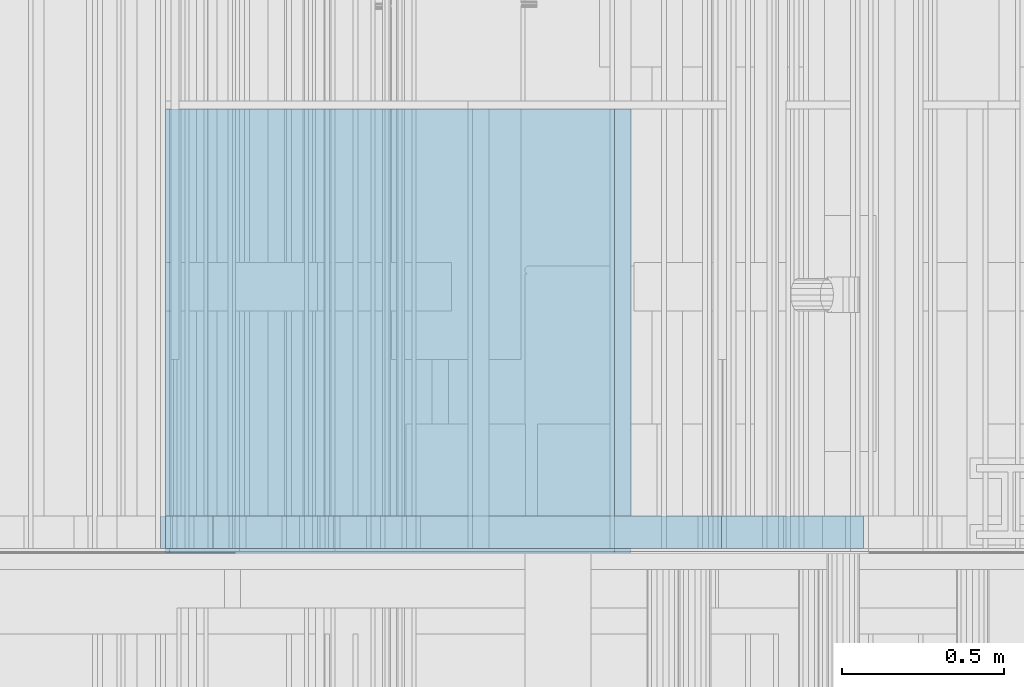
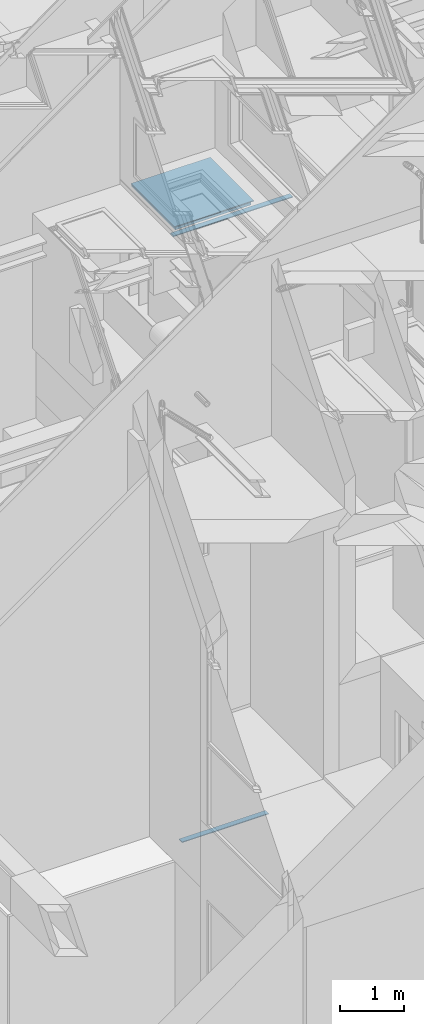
# One storey, part 74 of 583: 4 building element parts, 3 elements without a shape of their own.
"""IFC2X3 building model written with IfcOpenShell, lengths in metres."""

from ifc_helpers import new_model, entity, si_unit, converted_unit, derived_unit, money_unit, direction, frame, frame_2d, origin_with_axes, place, context, subcontext, project, spatial, polyline, rectangle, outline, extrude, material, type_object, element, aggregate, save


model = new_model("IFC2X3")

# Units and contexts
model_context = context("Model", 3, precision=1e-05, world=origin_with_axes(), true_north=direction((0.0, 1.0)))
body_context = subcontext(model_context, "Body", "Model", "MODEL_VIEW", scale=1.0)
ifc_project = project(units=[si_unit("LENGTHUNIT", "METRE"), si_unit("AREAUNIT", "SQUARE_METRE"), si_unit("VOLUMEUNIT", "CUBIC_METRE"), si_unit("ABSORBEDDOSEUNIT", "GRAY"), si_unit("AMOUNTOFSUBSTANCEUNIT", "MOLE"), si_unit("DOSEEQUIVALENTUNIT", "SIEVERT"), si_unit("ELECTRICCAPACITANCEUNIT", "FARAD"), si_unit("ELECTRICCHARGEUNIT", "COULOMB"), si_unit("ELECTRICCONDUCTANCEUNIT", "SIEMENS"), si_unit("ELECTRICCURRENTUNIT", "AMPERE"), si_unit("ELECTRICRESISTANCEUNIT", "OHM"), si_unit("ELECTRICVOLTAGEUNIT", "VOLT"), si_unit("ENERGYUNIT", "JOULE"), si_unit("FORCEUNIT", "NEWTON"), si_unit("FREQUENCYUNIT", "HERTZ"), si_unit("ILLUMINANCEUNIT", "LUX"), si_unit("INDUCTANCEUNIT", "HENRY"), si_unit("LUMINOUSFLUXUNIT", "LUMEN"), si_unit("LUMINOUSINTENSITYUNIT", "CANDELA"), si_unit("MAGNETICFLUXDENSITYUNIT", "TESLA"), si_unit("MAGNETICFLUXUNIT", "WEBER"), si_unit("MASSUNIT", "GRAM"), converted_unit("PLANEANGLEUNIT", "degree", entity("IfcReal", 0.0174532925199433), si_unit("PLANEANGLEUNIT", "RADIAN"), dimensions=[0, 0, 0, 0, 0, 0, 0]), si_unit("POWERUNIT", "WATT"), si_unit("PRESSUREUNIT", "PASCAL"), si_unit("RADIOACTIVITYUNIT", "BECQUEREL"), si_unit("SOLIDANGLEUNIT", "STERADIAN"), si_unit("THERMODYNAMICTEMPERATUREUNIT", "KELVIN"), si_unit("TIMEUNIT", "SECOND"), derived_unit("ACCELERATIONUNIT", [(si_unit("LENGTHUNIT", "METRE"), 1), (si_unit("TIMEUNIT", "SECOND"), -2)]), derived_unit("ANGULARVELOCITYUNIT", [(converted_unit("PLANEANGLEUNIT", "degree", entity("IfcReal", 0.0174532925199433), si_unit("PLANEANGLEUNIT", "RADIAN"), dimensions=[0, 0, 0, 0, 0, 0, 0]), 1), (si_unit("TIMEUNIT", "SECOND"), -1)]), derived_unit("CURVATUREUNIT", [(converted_unit("PLANEANGLEUNIT", "degree", entity("IfcReal", 0.0174532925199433), si_unit("PLANEANGLEUNIT", "RADIAN"), dimensions=[0, 0, 0, 0, 0, 0, 0]), 1), (si_unit("LENGTHUNIT", "METRE"), -1)]), derived_unit("DYNAMICVISCOSITYUNIT", [(si_unit("PRESSUREUNIT", "PASCAL"), 1), (si_unit("TIMEUNIT", "SECOND"), 1)]), derived_unit("HEATFLUXDENSITYUNIT", [(si_unit("POWERUNIT", "WATT"), 1), (si_unit("LENGTHUNIT", "METRE"), -2)]), derived_unit("HEATINGVALUEUNIT", [(si_unit("ENERGYUNIT", "JOULE"), 1), (si_unit("MASSUNIT", "GRAM"), -1)]), derived_unit("INTEGERCOUNTRATEUNIT", [(si_unit("TIMEUNIT", "SECOND"), -1)]), derived_unit("IONCONCENTRATIONUNIT", [(si_unit("MASSUNIT", "GRAM"), 1), (si_unit("VOLUMEUNIT", "CUBIC_METRE"), -1)]), derived_unit("ISOTHERMALMOISTURECAPACITYUNIT", [(si_unit("VOLUMEUNIT", "CUBIC_METRE"), 1), (si_unit("MASSUNIT", "GRAM"), -1)]), derived_unit("KINEMATICVISCOSITYUNIT", [(si_unit("AREAUNIT", "SQUARE_METRE"), 1), (si_unit("TIMEUNIT", "SECOND"), -1)]), derived_unit("LINEARFORCEUNIT", [(si_unit("FORCEUNIT", "NEWTON"), 1), (si_unit("LENGTHUNIT", "METRE"), -1)]), derived_unit("LINEARMOMENTUNIT", [(si_unit("FORCEUNIT", "NEWTON"), 1), (si_unit("LENGTHUNIT", "METRE"), -1)]), derived_unit("LINEARSTIFFNESSUNIT", [(si_unit("FORCEUNIT", "NEWTON"), 1), (si_unit("LENGTHUNIT", "METRE"), -1)]), derived_unit("LINEARVELOCITYUNIT", [(si_unit("LENGTHUNIT", "METRE"), 1), (si_unit("TIMEUNIT", "SECOND"), -1)]), derived_unit("LUMINOUSINTENSITYDISTRIBUTIONUNIT", [(si_unit("LUMINOUSINTENSITYUNIT", "CANDELA"), 1), (si_unit("LUMINOUSFLUXUNIT", "LUMEN"), -1)]), derived_unit("MASSDENSITYUNIT", [(si_unit("MASSUNIT", "GRAM"), 1), (si_unit("VOLUMEUNIT", "CUBIC_METRE"), -1)]), derived_unit("MASSFLOWRATEUNIT", [(si_unit("MASSUNIT", "GRAM"), 1), (si_unit("TIMEUNIT", "SECOND"), -1)]), derived_unit("MASSPERLENGTHUNIT", [(si_unit("MASSUNIT", "GRAM"), 1), (si_unit("LENGTHUNIT", "METRE"), -1)]), derived_unit("MODULUSOFELASTICITYUNIT", [(si_unit("FORCEUNIT", "NEWTON"), 1), (si_unit("AREAUNIT", "SQUARE_METRE"), -1)]), derived_unit("MODULUSOFLINEARSUBGRADEREACTIONUNIT", [(si_unit("FORCEUNIT", "NEWTON"), 1), (si_unit("LENGTHUNIT", "METRE"), -2)]), derived_unit("MODULUSOFROTATIONALSUBGRADEREACTIONUNIT", [(si_unit("FORCEUNIT", "NEWTON"), 1), (si_unit("LENGTHUNIT", "METRE"), 1)]), derived_unit("MODULUSOFSUBGRADEREACTIONUNIT", [(si_unit("FORCEUNIT", "NEWTON"), 1), (si_unit("VOLUMEUNIT", "CUBIC_METRE"), -1)]), derived_unit("MOISTUREDIFFUSIVITYUNIT", [(si_unit("VOLUMEUNIT", "CUBIC_METRE"), 1), (si_unit("TIMEUNIT", "SECOND"), -1)]), derived_unit("MOLECULARWEIGHTUNIT", [(si_unit("MASSUNIT", "GRAM"), 1), (si_unit("AMOUNTOFSUBSTANCEUNIT", "MOLE"), -1)]), derived_unit("PLANARFORCEUNIT", [(si_unit("FORCEUNIT", "NEWTON"), 1), (si_unit("LENGTHUNIT", "METRE"), -2)]), derived_unit("ROTATIONALFREQUENCYUNIT", [(si_unit("TIMEUNIT", "SECOND"), -1)]), derived_unit("ROTATIONALMASSUNIT", [(si_unit("MASSUNIT", "GRAM"), 1), (si_unit("LENGTHUNIT", "METRE"), 2)]), derived_unit("ROTATIONALSTIFFNESSUNIT", [(si_unit("FORCEUNIT", "NEWTON"), 1), (si_unit("LENGTHUNIT", "METRE"), 1), (converted_unit("PLANEANGLEUNIT", "degree", entity("IfcReal", 0.0174532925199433), si_unit("PLANEANGLEUNIT", "RADIAN"), dimensions=[0, 0, 0, 0, 0, 0, 0]), -1)]), derived_unit("SECTIONAREAINTEGRALUNIT", [(si_unit("LENGTHUNIT", "METRE"), 5)]), derived_unit("SECTIONMODULUSUNIT", [(si_unit("LENGTHUNIT", "METRE"), 3)]), derived_unit("SHEARMODULUSUNIT", [(si_unit("FORCEUNIT", "NEWTON"), 1), (si_unit("AREAUNIT", "SQUARE_METRE"), -1)]), derived_unit("SOUNDPOWERUNIT", [(si_unit("ENERGYUNIT", "JOULE"), 1), (si_unit("TIMEUNIT", "SECOND"), -1)]), derived_unit("SPECIFICHEATCAPACITYUNIT", [(si_unit("FORCEUNIT", "NEWTON"), 1), (si_unit("MASSUNIT", "GRAM"), -1), (si_unit("THERMODYNAMICTEMPERATUREUNIT", "KELVIN"), -1)]), derived_unit("TEMPERATUREGRADIENTUNIT", [(si_unit("THERMODYNAMICTEMPERATUREUNIT", "KELVIN"), 1), (si_unit("LENGTHUNIT", "METRE"), -1)]), derived_unit("THERMALADMITTANCEUNIT", [(si_unit("POWERUNIT", "WATT"), 1), (si_unit("AREAUNIT", "SQUARE_METRE"), -1), (si_unit("THERMODYNAMICTEMPERATUREUNIT", "KELVIN"), -1)]), derived_unit("THERMALCONDUCTANCEUNIT", [(si_unit("POWERUNIT", "WATT"), 1), (si_unit("LENGTHUNIT", "METRE"), -1), (si_unit("THERMODYNAMICTEMPERATUREUNIT", "KELVIN"), -1)]), derived_unit("THERMALEXPANSIONCOEFFICIENTUNIT", [(si_unit("THERMODYNAMICTEMPERATUREUNIT", "KELVIN"), -1)]), derived_unit("THERMALRESISTANCEUNIT", [(si_unit("AREAUNIT", "SQUARE_METRE"), 1), (si_unit("POWERUNIT", "WATT"), -1)]), derived_unit("THERMALTRANSMITTANCEUNIT", [(si_unit("POWERUNIT", "WATT"), 1), (si_unit("AREAUNIT", "SQUARE_METRE"), -1), (si_unit("THERMODYNAMICTEMPERATUREUNIT", "KELVIN"), -1)]), derived_unit("TORQUEUNIT", [(si_unit("FORCEUNIT", "NEWTON"), 1), (si_unit("LENGTHUNIT", "METRE"), 1)]), derived_unit("VAPORPERMEABILITYUNIT", [(si_unit("MASSUNIT", "GRAM"), 1), (si_unit("TIMEUNIT", "SECOND"), -1)]), derived_unit("VOLUMETRICFLOWRATEUNIT", [(si_unit("VOLUMEUNIT", "CUBIC_METRE"), 1), (si_unit("TIMEUNIT", "SECOND"), -1)]), derived_unit("WARPINGCONSTANTUNIT", [(si_unit("LENGTHUNIT", "METRE"), 6)]), derived_unit("WARPINGMOMENTUNIT", [(si_unit("FORCEUNIT", "NEWTON"), 1), (si_unit("LENGTHUNIT", "METRE"), 2)]), money_unit("GBP")], contexts=[model_context])

# Site, building, storey
site_placement = place(None, origin_with_axes())
site = spatial("IfcSite", under=ifc_project, at=site_placement, Name="Site", CompositionType="ELEMENT")
building_placement = place(site_placement, origin_with_axes())
building = spatial("IfcBuilding", under=site, at=building_placement, Name="Building01", CompositionType="ELEMENT")
storey_placement = place(building_placement, frame((0.0, 0.0, 20.78), z_axis=(0.0, 0.0, 1.0), x_axis=(1.0, 0.0, 0.0)))
storey = spatial("IfcBuildingStorey", under=building, at=storey_placement, Name="RL", CompositionType="ELEMENT", Elevation=20.78)

# Wall, building element part
wall_type_1 = type_object("IfcWallType", Name="SHE_A-Walls_Type05a_Partition_95mm_tall", PredefinedType="NOTDEFINED")
wall_1_placement = place(storey_placement, frame((6.571475, 8.64, -16.57427), z_axis=(0.0, 1.0, 0.0), x_axis=(1.0, 0.0, 0.0)))
wall_1 = element("IfcWall", 1, at=wall_1_placement, inside=storey, type_object=wall_type_1, Name="5A", ObjectType="SHE_A-Walls_Type05a_Partition_95mm_tall")
ifc_material_1 = material(Name="A_BSUK_Walls_Timber")
building_element_part_1_placement = place(wall_1_placement, origin_with_axes())
building_element_part_1 = element("IfcBuildingElementPart", 2, at=building_element_part_1_placement, material=ifc_material_1, Name="2", context=body_context, shape_type="SweptSolid", body=[
    extrude(rectangle(XDim=1.574195, YDim=0.015, at=frame_2d((0.837097, 0.0675), x_axis=(-1.0, 0.0))), frame((0.0, 0.0, 0.015), z_axis=(0.0, 0.0, 1.0), x_axis=(1.0, 0.0, 0.0)), (0.0, 0.0, 1.0), 0.1),
])
aggregate(wall_1, [building_element_part_1])

wall_type_2 = type_object("IfcWallType", Name="SHE_A-Walls_Type04a_BlockworkWall_130mm", PredefinedType="NOTDEFINED")
wall_2_placement = place(storey_placement, frame((8.665, 8.64, -5.065), z_axis=(0.0, 1.0, 0.0), x_axis=(-1.0, 0.0, 0.0)))
wall_2 = element("IfcWall", 3, at=wall_2_placement, inside=storey, type_object=wall_type_2, Name="4A", ObjectType="SHE_A-Walls_Type04a_BlockworkWall_130mm")
building_element_part_2_placement = place(wall_2_placement, origin_with_axes())
building_element_part_2 = element("IfcBuildingElementPart", 4, at=building_element_part_2_placement, material=ifc_material_1, Name="2", context=body_context, shape_type="SweptSolid", body=[
    extrude(outline(polyline([(2.19, 0.13), (0.03, 0.13), (0.03, 0.115), (2.205, 0.115), (2.19, 0.13)])), frame((0.0, 0.0, 0.015), z_axis=(0.0, 0.0, 1.0), x_axis=(1.0, 0.0, 0.0)), (0.0, 0.0, 1.0), 0.1),
])
aggregate(wall_2, [building_element_part_2])

# Wall, building element parts
wall_type_3 = type_object("IfcWallType", Name="SHE_A-Walls_Type05c_PreWallShell_65mm", PredefinedType="NOTDEFINED")
wall_3_placement = place(storey_placement, frame((6.59, 8.64, -4.815), z_axis=(0.0, 1.0, 0.0), x_axis=(1.0, 0.0, 0.0)))
wall_3 = element("IfcWall", 5, at=wall_3_placement, inside=storey, type_object=wall_type_3, Name="5C", ObjectType="SHE_A-Walls_Type05c_PreWallShell_65mm")
ifc_material_2 = material(Name="A_BSUK_OpeningsClearance")
placement = place(wall_3_placement, origin_with_axes())
building_element_part_3 = element("IfcBuildingElementPart", 6, at=placement, material=ifc_material_2, Name="1", context=body_context, shape_type="SweptSolid", body=[
    extrude(rectangle(XDim=1.378, YDim=0.05, at=frame_2d((0.586, -0.025), x_axis=(-1.0, 0.0))), origin_with_axes(), (0.0, 0.0, 1.0), 1.375),
])
building_element_part_4 = element("IfcBuildingElementPart", 7, at=placement, material=ifc_material_1, Name="2", context=body_context, shape_type="SweptSolid", body=[
    extrude(rectangle(XDim=1.44, YDim=0.015, at=frame_2d((0.605, -0.0575), x_axis=(-1.0, 0.0))), origin_with_axes(), (0.0, 0.0, 1.0), 1.375),
])
aggregate(wall_3, [building_element_part_3, building_element_part_4])

save(model, "model.ifc")
